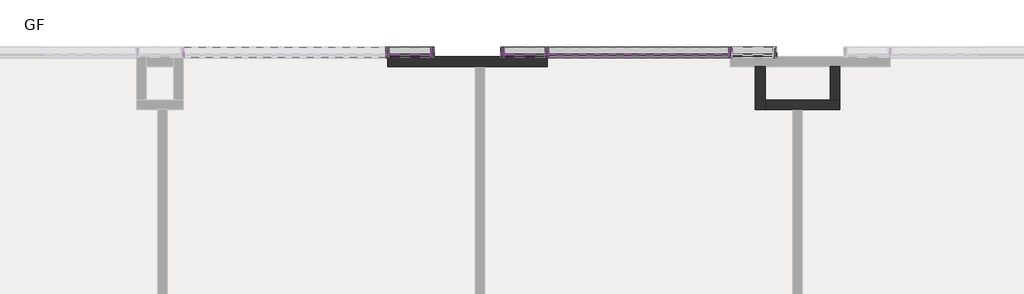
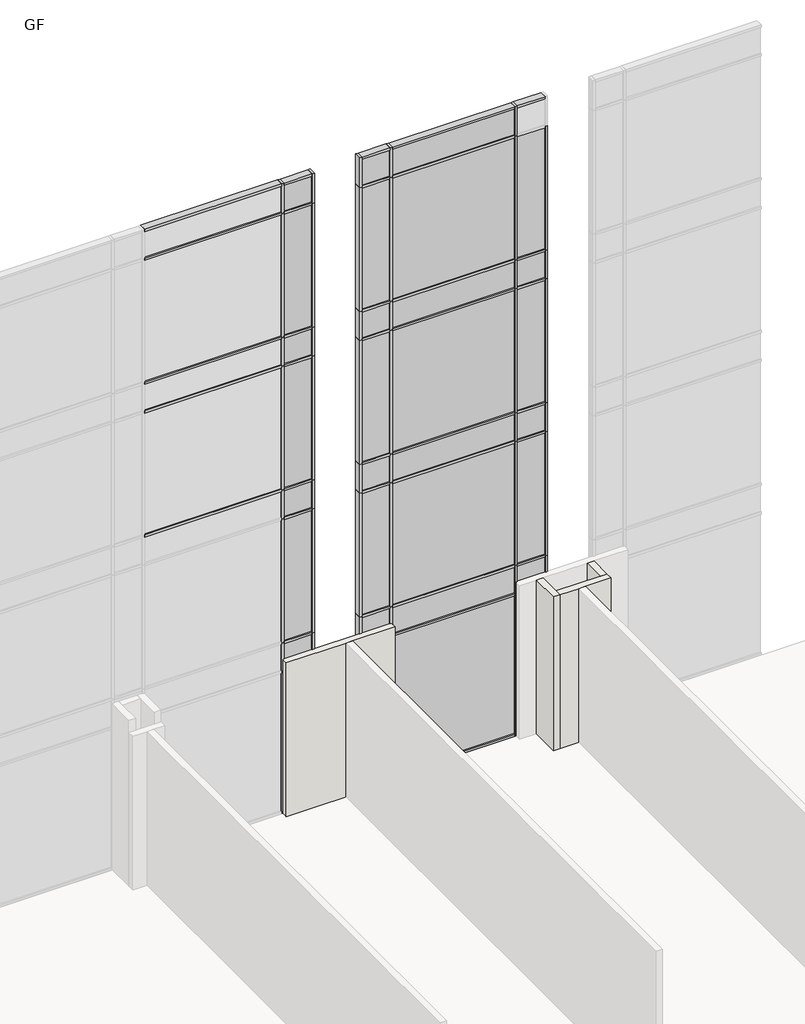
# One storey, part 20 of 23: 87 members, 31 plates, 4 walls.
"""IFC4 building model written with IfcOpenShell, lengths in millimetres."""

from ifc_helpers import new_model, si_unit, frame, origin, place, context, project, spatial, polyline, outline, extrude, faceted_brep, transform, mapped, element, save
from components import rectangular_mullion_50_x_150mm_64d38db8, rectangular_mullion_50_x_150mm_68b3818a, rectangular_mullion_50_x_150mm_350c86c2, rectangular_mullion_50_x_150mm_f245f1eb, rectangular_mullion_50_x_150mm_5fdcfccd, rectangular_mullion_50_x_150mm_d11e3bb4, rectangular_mullion_50_x_150mm_7d543e93, rectangular_mullion_50_x_150mm_9e0f1e24, rectangular_mullion_50_x_150mm_a95743fc, rectangular_mullion_50_x_150mm_dbb82e9e, rectangular_mullion_50_x_150mm_32aaa733, rectangular_mullion_50_x_150mm_9b8962c0, rectangular_mullion_50_x_150mm_2ef494cb, rectangular_mullion_50_x_150mm_4ae6e471, system_panel_glazed_f9f902e6, system_panel_glazed_bf1ddb54, system_panel_glazed_6ff5b55b, system_panel_glazed_2a2db0e8, system_panel_glazed_93ed122c, system_panel_glazed_c1421171

model = new_model("IFC4")

# Units and contexts
model_context = context("Model", 3, world=origin())
ifc_project = project(units=[si_unit("LENGTHUNIT", "METRE", prefix="MILLI")], contexts=[model_context])

# Site, building, storey
site = spatial("IfcSite", under=ifc_project)
building = spatial("IfcBuilding", under=site)
storey = spatial("IfcBuildingStorey", under=building, Name="GF", Elevation=900.0)

# Members
placement = place(None, origin())
rectangular_mullion_50_x_150mm_shape = rectangular_mullion_50_x_150mm_64d38db8(model_context)
element("IfcMember", 1, ObjectType="Rectangular Mullion : 50 x 150mm", at=placement, inside=storey, context=model_context, shape_type="MappedRepresentation", body=[
    mapped(rectangular_mullion_50_x_150mm_shape, transform((14592.4134101, 21322.3851347, 15125.0), x_axis=(0.0, 0.0, 1.0), y_axis=(0.0, -1.0, 0.0), z_axis=(1.0, 0.0, 0.0))),
])
element("IfcMember", 2, ObjectType="Rectangular Mullion : 50 x 150mm", at=placement, inside=storey, context=model_context, shape_type="MappedRepresentation", body=[
    mapped(rectangular_mullion_50_x_150mm_shape, transform((11277.4134101, 21322.3851347, 15125.0), x_axis=(0.0, 0.0, 1.0), y_axis=(0.0, -1.0, 0.0), z_axis=(1.0, 0.0, 0.0))),
])
element("IfcMember", 3, ObjectType="Rectangular Mullion : 50 x 150mm", at=placement, inside=storey, context=model_context, shape_type="MappedRepresentation", body=[
    mapped(rectangular_mullion_50_x_150mm_shape, transform((9607.4134101, 21322.3851347, 15125.0), x_axis=(0.0, 0.0, 1.0), y_axis=(0.0, -1.0, 0.0), z_axis=(1.0, 0.0, 0.0))),
])
element("IfcMember", 4, ObjectType="Rectangular Mullion : 50 x 150mm", at=placement, inside=storey, context=model_context, shape_type="MappedRepresentation", body=[
    mapped(rectangular_mullion_50_x_150mm_shape, transform((10677.4134101, 21322.3851347, 900.0), x_axis=(0.0, 0.0, -1.0), y_axis=(0.0, -1.0, 0.0), z_axis=(-1.0, 0.0, 0.0))),
])
element("IfcMember", 5, ObjectType="Rectangular Mullion : 50 x 150mm", at=placement, inside=storey, context=model_context, shape_type="MappedRepresentation", body=[
    mapped(rectangular_mullion_50_x_150mm_shape, transform((13992.4134101, 21322.3851347, 900.0), x_axis=(0.0, 0.0, -1.0), y_axis=(0.0, -1.0, 0.0), z_axis=(-1.0, 0.0, 0.0))),
])
element("IfcMember", 6, ObjectType="Rectangular Mullion : 50 x 150mm", at=placement, inside=storey, context=model_context, shape_type="MappedRepresentation", body=[
    mapped(rectangular_mullion_50_x_150mm_shape, transform((9007.4134101, 21322.3851347, 900.0), x_axis=(0.0, 0.0, -1.0), y_axis=(0.0, -1.0, 0.0), z_axis=(-1.0, 0.0, 0.0))),
])
rectangular_mullion_50_x_150mm_2_shape = rectangular_mullion_50_x_150mm_68b3818a(model_context)
element("IfcMember", 7, ObjectType="Rectangular Mullion : 50 x 150mm", at=placement, inside=storey, context=model_context, shape_type="MappedRepresentation", body=[
    mapped(rectangular_mullion_50_x_150mm_2_shape, transform((11277.4134101, 21322.3851347, 4750.0), x_axis=(0.0, 0.0, 1.0), y_axis=(0.0, -1.0, 0.0), z_axis=(1.0, 0.0, 0.0))),
])
element("IfcMember", 8, ObjectType="Rectangular Mullion : 50 x 150mm", at=placement, inside=storey, context=model_context, shape_type="MappedRepresentation", body=[
    mapped(rectangular_mullion_50_x_150mm_2_shape, transform((14592.4134101, 21322.3851347, 4750.0), x_axis=(0.0, 0.0, 1.0), y_axis=(0.0, -1.0, 0.0), z_axis=(1.0, 0.0, 0.0))),
])
element("IfcMember", 9, ObjectType="Rectangular Mullion : 50 x 150mm", at=placement, inside=storey, context=model_context, shape_type="MappedRepresentation", body=[
    mapped(rectangular_mullion_50_x_150mm_2_shape, transform((11277.4134101, 21322.3851347, 4100.0), x_axis=(0.0, 0.0, 1.0), y_axis=(0.0, -1.0, 0.0), z_axis=(1.0, 0.0, 0.0))),
])
element("IfcMember", 10, ObjectType="Rectangular Mullion : 50 x 150mm", at=placement, inside=storey, context=model_context, shape_type="MappedRepresentation", body=[
    mapped(rectangular_mullion_50_x_150mm_2_shape, transform((14592.4134101, 21322.3851347, 4100.0), x_axis=(0.0, 0.0, 1.0), y_axis=(0.0, -1.0, 0.0), z_axis=(1.0, 0.0, 0.0))),
])
element("IfcMember", 11, ObjectType="Rectangular Mullion : 50 x 150mm", at=placement, inside=storey, context=model_context, shape_type="MappedRepresentation", body=[
    mapped(rectangular_mullion_50_x_150mm_2_shape, transform((11277.4134101, 21322.3851347, 8200.0), x_axis=(0.0, 0.0, 1.0), y_axis=(0.0, -1.0, 0.0), z_axis=(1.0, 0.0, 0.0))),
])
element("IfcMember", 12, ObjectType="Rectangular Mullion : 50 x 150mm", at=placement, inside=storey, context=model_context, shape_type="MappedRepresentation", body=[
    mapped(rectangular_mullion_50_x_150mm_2_shape, transform((14592.4134101, 21322.3851347, 8200.0), x_axis=(0.0, 0.0, 1.0), y_axis=(0.0, -1.0, 0.0), z_axis=(1.0, 0.0, 0.0))),
])
element("IfcMember", 13, ObjectType="Rectangular Mullion : 50 x 150mm", at=placement, inside=storey, context=model_context, shape_type="MappedRepresentation", body=[
    mapped(rectangular_mullion_50_x_150mm_2_shape, transform((11277.4134101, 21322.3851347, 11650.0), x_axis=(0.0, 0.0, 1.0), y_axis=(0.0, -1.0, 0.0), z_axis=(1.0, 0.0, 0.0))),
])
element("IfcMember", 14, ObjectType="Rectangular Mullion : 50 x 150mm", at=placement, inside=storey, context=model_context, shape_type="MappedRepresentation", body=[
    mapped(rectangular_mullion_50_x_150mm_2_shape, transform((14592.4134101, 21322.3851347, 11650.0), x_axis=(0.0, 0.0, 1.0), y_axis=(0.0, -1.0, 0.0), z_axis=(1.0, 0.0, 0.0))),
])
element("IfcMember", 15, ObjectType="Rectangular Mullion : 50 x 150mm", at=placement, inside=storey, context=model_context, shape_type="MappedRepresentation", body=[
    mapped(rectangular_mullion_50_x_150mm_2_shape, transform((11277.4134101, 21322.3851347, 7550.0), x_axis=(0.0, 0.0, 1.0), y_axis=(0.0, -1.0, 0.0), z_axis=(1.0, 0.0, 0.0))),
])
element("IfcMember", 16, ObjectType="Rectangular Mullion : 50 x 150mm", at=placement, inside=storey, context=model_context, shape_type="MappedRepresentation", body=[
    mapped(rectangular_mullion_50_x_150mm_2_shape, transform((14592.4134101, 21322.3851347, 7550.0), x_axis=(0.0, 0.0, 1.0), y_axis=(0.0, -1.0, 0.0), z_axis=(1.0, 0.0, 0.0))),
])
element("IfcMember", 17, ObjectType="Rectangular Mullion : 50 x 150mm", at=placement, inside=storey, context=model_context, shape_type="MappedRepresentation", body=[
    mapped(rectangular_mullion_50_x_150mm_2_shape, transform((11277.4134101, 21322.3851347, 11000.0), x_axis=(0.0, 0.0, 1.0), y_axis=(0.0, -1.0, 0.0), z_axis=(1.0, 0.0, 0.0))),
])
element("IfcMember", 18, ObjectType="Rectangular Mullion : 50 x 150mm", at=placement, inside=storey, context=model_context, shape_type="MappedRepresentation", body=[
    mapped(rectangular_mullion_50_x_150mm_2_shape, transform((14592.4134101, 21322.3851347, 11000.0), x_axis=(0.0, 0.0, 1.0), y_axis=(0.0, -1.0, 0.0), z_axis=(1.0, 0.0, 0.0))),
])
element("IfcMember", 19, ObjectType="Rectangular Mullion : 50 x 150mm", at=placement, inside=storey, context=model_context, shape_type="MappedRepresentation", body=[
    mapped(rectangular_mullion_50_x_150mm_2_shape, transform((11277.4134101, 21322.3851347, 14450.0), x_axis=(0.0, 0.0, 1.0), y_axis=(0.0, -1.0, 0.0), z_axis=(1.0, 0.0, 0.0))),
])
element("IfcMember", 20, ObjectType="Rectangular Mullion : 50 x 150mm", at=placement, inside=storey, context=model_context, shape_type="MappedRepresentation", body=[
    mapped(rectangular_mullion_50_x_150mm_2_shape, transform((9607.4134101, 21322.3851347, 4100.0), x_axis=(0.0, 0.0, 1.0), y_axis=(0.0, -1.0, 0.0), z_axis=(1.0, 0.0, 0.0))),
])
element("IfcMember", 21, ObjectType="Rectangular Mullion : 50 x 150mm", at=placement, inside=storey, context=model_context, shape_type="MappedRepresentation", body=[
    mapped(rectangular_mullion_50_x_150mm_2_shape, transform((9607.4134101, 21322.3851347, 4750.0), x_axis=(0.0, 0.0, 1.0), y_axis=(0.0, -1.0, 0.0), z_axis=(1.0, 0.0, 0.0))),
])
element("IfcMember", 22, ObjectType="Rectangular Mullion : 50 x 150mm", at=placement, inside=storey, context=model_context, shape_type="MappedRepresentation", body=[
    mapped(rectangular_mullion_50_x_150mm_2_shape, transform((9607.4134101, 21322.3851347, 7550.0), x_axis=(0.0, 0.0, 1.0), y_axis=(0.0, -1.0, 0.0), z_axis=(1.0, 0.0, 0.0))),
])
element("IfcMember", 23, ObjectType="Rectangular Mullion : 50 x 150mm", at=placement, inside=storey, context=model_context, shape_type="MappedRepresentation", body=[
    mapped(rectangular_mullion_50_x_150mm_2_shape, transform((9607.4134101, 21322.3851347, 8200.0), x_axis=(0.0, 0.0, 1.0), y_axis=(0.0, -1.0, 0.0), z_axis=(1.0, 0.0, 0.0))),
])
element("IfcMember", 24, ObjectType="Rectangular Mullion : 50 x 150mm", at=placement, inside=storey, context=model_context, shape_type="MappedRepresentation", body=[
    mapped(rectangular_mullion_50_x_150mm_2_shape, transform((9607.4134101, 21322.3851347, 11000.0), x_axis=(0.0, 0.0, 1.0), y_axis=(0.0, -1.0, 0.0), z_axis=(1.0, 0.0, 0.0))),
])
element("IfcMember", 25, ObjectType="Rectangular Mullion : 50 x 150mm", at=placement, inside=storey, context=model_context, shape_type="MappedRepresentation", body=[
    mapped(rectangular_mullion_50_x_150mm_2_shape, transform((9607.4134101, 21322.3851347, 11650.0), x_axis=(0.0, 0.0, 1.0), y_axis=(0.0, -1.0, 0.0), z_axis=(1.0, 0.0, 0.0))),
])
element("IfcMember", 26, ObjectType="Rectangular Mullion : 50 x 150mm", at=placement, inside=storey, context=model_context, shape_type="MappedRepresentation", body=[
    mapped(rectangular_mullion_50_x_150mm_2_shape, transform((9607.4134101, 21322.3851347, 14450.0), x_axis=(0.0, 0.0, 1.0), y_axis=(0.0, -1.0, 0.0), z_axis=(1.0, 0.0, 0.0))),
])
rectangular_mullion_50_x_150mm_3_shape = rectangular_mullion_50_x_150mm_350c86c2(model_context)
element("IfcMember", 27, ObjectType="Rectangular Mullion : 50 x 150mm", at=placement, inside=storey, context=model_context, shape_type="MappedRepresentation", body=[
    mapped(rectangular_mullion_50_x_150mm_3_shape, transform((11327.4134101, 21322.3851347, 900.0), x_axis=(0.0, 0.0, -1.0), y_axis=(0.0, -1.0, 0.0), z_axis=(-1.0, 0.0, 0.0))),
])
rectangular_mullion_50_x_150mm_4_shape = rectangular_mullion_50_x_150mm_f245f1eb(model_context)
element("IfcMember", 28, ObjectType="Rectangular Mullion : 50 x 150mm", at=placement, inside=storey, context=model_context, shape_type="MappedRepresentation", body=[
    mapped(rectangular_mullion_50_x_150mm_4_shape, transform((11302.4134101, 21322.3851347, 900.0), x_axis=(1.0, 0.0, 0.0), y_axis=(0.0, -1.0, 0.0), z_axis=(0.0, 0.0, -1.0))),
])
element("IfcMember", 29, ObjectType="Rectangular Mullion : 50 x 150mm", at=placement, inside=storey, context=model_context, shape_type="MappedRepresentation", body=[
    mapped(rectangular_mullion_50_x_150mm_4_shape, transform((13967.4134101, 21322.3851347, 900.0), x_axis=(1.0, 0.0, 0.0), y_axis=(0.0, -1.0, 0.0), z_axis=(0.0, 0.0, -1.0))),
])
element("IfcMember", 30, ObjectType="Rectangular Mullion : 50 x 150mm", at=placement, inside=storey, context=model_context, shape_type="MappedRepresentation", body=[
    mapped(rectangular_mullion_50_x_150mm_4_shape, transform((8982.4134101, 21322.3851347, 900.0), x_axis=(1.0, 0.0, 0.0), y_axis=(0.0, -1.0, 0.0), z_axis=(0.0, 0.0, -1.0))),
])
element("IfcMember", 31, ObjectType="Rectangular Mullion : 50 x 150mm", at=placement, inside=storey, context=model_context, shape_type="MappedRepresentation", body=[
    mapped(rectangular_mullion_50_x_150mm_3_shape, transform((13942.4134101, 21322.3851347, 15125.0), x_axis=(0.0, 0.0, 1.0), y_axis=(0.0, -1.0, 0.0), z_axis=(1.0, 0.0, 0.0))),
])
rectangular_mullion_50_x_150mm_5_shape = rectangular_mullion_50_x_150mm_5fdcfccd(model_context)
element("IfcMember", 32, ObjectType="Rectangular Mullion : 50 x 150mm", at=placement, inside=storey, context=model_context, shape_type="MappedRepresentation", body=[
    mapped(rectangular_mullion_50_x_150mm_5_shape, transform((13942.4134101, 21322.3851347, 4750.0), x_axis=(0.0, 0.0, 1.0), y_axis=(0.0, -1.0, 0.0), z_axis=(1.0, 0.0, 0.0))),
])
element("IfcMember", 33, ObjectType="Rectangular Mullion : 50 x 150mm", at=placement, inside=storey, context=model_context, shape_type="MappedRepresentation", body=[
    mapped(rectangular_mullion_50_x_150mm_5_shape, transform((13942.4134101, 21322.3851347, 4100.0), x_axis=(0.0, 0.0, 1.0), y_axis=(0.0, -1.0, 0.0), z_axis=(1.0, 0.0, 0.0))),
])
element("IfcMember", 34, ObjectType="Rectangular Mullion : 50 x 150mm", at=placement, inside=storey, context=model_context, shape_type="MappedRepresentation", body=[
    mapped(rectangular_mullion_50_x_150mm_5_shape, transform((13942.4134101, 21322.3851347, 8200.0), x_axis=(0.0, 0.0, 1.0), y_axis=(0.0, -1.0, 0.0), z_axis=(1.0, 0.0, 0.0))),
])
element("IfcMember", 35, ObjectType="Rectangular Mullion : 50 x 150mm", at=placement, inside=storey, context=model_context, shape_type="MappedRepresentation", body=[
    mapped(rectangular_mullion_50_x_150mm_5_shape, transform((13942.4134101, 21322.3851347, 11650.0), x_axis=(0.0, 0.0, 1.0), y_axis=(0.0, -1.0, 0.0), z_axis=(1.0, 0.0, 0.0))),
])
element("IfcMember", 36, ObjectType="Rectangular Mullion : 50 x 150mm", at=placement, inside=storey, context=model_context, shape_type="MappedRepresentation", body=[
    mapped(rectangular_mullion_50_x_150mm_5_shape, transform((13942.4134101, 21322.3851347, 7550.0), x_axis=(0.0, 0.0, 1.0), y_axis=(0.0, -1.0, 0.0), z_axis=(1.0, 0.0, 0.0))),
])
element("IfcMember", 37, ObjectType="Rectangular Mullion : 50 x 150mm", at=placement, inside=storey, context=model_context, shape_type="MappedRepresentation", body=[
    mapped(rectangular_mullion_50_x_150mm_5_shape, transform((13942.4134101, 21322.3851347, 11000.0), x_axis=(0.0, 0.0, 1.0), y_axis=(0.0, -1.0, 0.0), z_axis=(1.0, 0.0, 0.0))),
])
element("IfcMember", 38, ObjectType="Rectangular Mullion : 50 x 150mm", at=placement, inside=storey, context=model_context, shape_type="MappedRepresentation", body=[
    mapped(rectangular_mullion_50_x_150mm_5_shape, transform((13942.4134101, 21322.3851347, 14450.0), x_axis=(0.0, 0.0, 1.0), y_axis=(0.0, -1.0, 0.0), z_axis=(1.0, 0.0, 0.0))),
])
rectangular_mullion_50_x_150mm_6_shape = rectangular_mullion_50_x_150mm_d11e3bb4(model_context)
element("IfcMember", 39, ObjectType="Rectangular Mullion : 50 x 150mm", at=placement, inside=storey, context=model_context, shape_type="MappedRepresentation", body=[
    mapped(rectangular_mullion_50_x_150mm_6_shape, transform((11302.4134101, 21322.3851347, 4750.0), x_axis=(1.0, 0.0, 0.0), y_axis=(0.0, -1.0, 0.0), z_axis=(0.0, 0.0, -1.0))),
])
element("IfcMember", 40, ObjectType="Rectangular Mullion : 50 x 150mm", at=placement, inside=storey, context=model_context, shape_type="MappedRepresentation", body=[
    mapped(rectangular_mullion_50_x_150mm_6_shape, transform((13967.4134101, 21322.3851347, 4750.0), x_axis=(1.0, 0.0, 0.0), y_axis=(0.0, -1.0, 0.0), z_axis=(0.0, 0.0, -1.0))),
])
element("IfcMember", 41, ObjectType="Rectangular Mullion : 50 x 150mm", at=placement, inside=storey, context=model_context, shape_type="MappedRepresentation", body=[
    mapped(rectangular_mullion_50_x_150mm_6_shape, transform((11302.4134101, 21322.3851347, 8200.0), x_axis=(1.0, 0.0, 0.0), y_axis=(0.0, -1.0, 0.0), z_axis=(0.0, 0.0, -1.0))),
])
element("IfcMember", 42, ObjectType="Rectangular Mullion : 50 x 150mm", at=placement, inside=storey, context=model_context, shape_type="MappedRepresentation", body=[
    mapped(rectangular_mullion_50_x_150mm_6_shape, transform((13967.4134101, 21322.3851347, 8200.0), x_axis=(1.0, 0.0, 0.0), y_axis=(0.0, -1.0, 0.0), z_axis=(0.0, 0.0, -1.0))),
])
element("IfcMember", 43, ObjectType="Rectangular Mullion : 50 x 150mm", at=placement, inside=storey, context=model_context, shape_type="MappedRepresentation", body=[
    mapped(rectangular_mullion_50_x_150mm_6_shape, transform((11302.4134101, 21322.3851347, 11650.0), x_axis=(1.0, 0.0, 0.0), y_axis=(0.0, -1.0, 0.0), z_axis=(0.0, 0.0, -1.0))),
])
element("IfcMember", 44, ObjectType="Rectangular Mullion : 50 x 150mm", at=placement, inside=storey, context=model_context, shape_type="MappedRepresentation", body=[
    mapped(rectangular_mullion_50_x_150mm_6_shape, transform((13967.4134101, 21322.3851347, 11650.0), x_axis=(1.0, 0.0, 0.0), y_axis=(0.0, -1.0, 0.0), z_axis=(0.0, 0.0, -1.0))),
])
element("IfcMember", 45, ObjectType="Rectangular Mullion : 50 x 150mm", at=placement, inside=storey, context=model_context, shape_type="MappedRepresentation", body=[
    mapped(rectangular_mullion_50_x_150mm_6_shape, transform((8982.4134101, 21322.3851347, 4750.0), x_axis=(1.0, 0.0, 0.0), y_axis=(0.0, -1.0, 0.0), z_axis=(0.0, 0.0, -1.0))),
])
element("IfcMember", 46, ObjectType="Rectangular Mullion : 50 x 150mm", at=placement, inside=storey, context=model_context, shape_type="MappedRepresentation", body=[
    mapped(rectangular_mullion_50_x_150mm_6_shape, transform((8982.4134101, 21322.3851347, 8200.0), x_axis=(1.0, 0.0, 0.0), y_axis=(0.0, -1.0, 0.0), z_axis=(0.0, 0.0, -1.0))),
])
element("IfcMember", 47, ObjectType="Rectangular Mullion : 50 x 150mm", at=placement, inside=storey, context=model_context, shape_type="MappedRepresentation", body=[
    mapped(rectangular_mullion_50_x_150mm_6_shape, transform((8982.4134101, 21322.3851347, 11650.0), x_axis=(1.0, 0.0, 0.0), y_axis=(0.0, -1.0, 0.0), z_axis=(0.0, 0.0, -1.0))),
])
rectangular_mullion_50_x_150mm_7_shape = rectangular_mullion_50_x_150mm_7d543e93(model_context)
element("IfcMember", 48, ObjectType="Rectangular Mullion : 50 x 150mm", at=placement, inside=storey, context=model_context, shape_type="MappedRepresentation", body=[
    mapped(rectangular_mullion_50_x_150mm_7_shape, transform((11302.4134101, 21322.3851347, 4100.0), x_axis=(1.0, 0.0, 0.0), y_axis=(0.0, -1.0, 0.0), z_axis=(0.0, 0.0, -1.0))),
])
element("IfcMember", 49, ObjectType="Rectangular Mullion : 50 x 150mm", at=placement, inside=storey, context=model_context, shape_type="MappedRepresentation", body=[
    mapped(rectangular_mullion_50_x_150mm_7_shape, transform((13967.4134101, 21322.3851347, 4100.0), x_axis=(1.0, 0.0, 0.0), y_axis=(0.0, -1.0, 0.0), z_axis=(0.0, 0.0, -1.0))),
])
element("IfcMember", 50, ObjectType="Rectangular Mullion : 50 x 150mm", at=placement, inside=storey, context=model_context, shape_type="MappedRepresentation", body=[
    mapped(rectangular_mullion_50_x_150mm_7_shape, transform((11302.4134101, 21322.3851347, 7550.0), x_axis=(1.0, 0.0, 0.0), y_axis=(0.0, -1.0, 0.0), z_axis=(0.0, 0.0, -1.0))),
])
element("IfcMember", 51, ObjectType="Rectangular Mullion : 50 x 150mm", at=placement, inside=storey, context=model_context, shape_type="MappedRepresentation", body=[
    mapped(rectangular_mullion_50_x_150mm_7_shape, transform((13967.4134101, 21322.3851347, 7550.0), x_axis=(1.0, 0.0, 0.0), y_axis=(0.0, -1.0, 0.0), z_axis=(0.0, 0.0, -1.0))),
])
element("IfcMember", 52, ObjectType="Rectangular Mullion : 50 x 150mm", at=placement, inside=storey, context=model_context, shape_type="MappedRepresentation", body=[
    mapped(rectangular_mullion_50_x_150mm_7_shape, transform((11302.4134101, 21322.3851347, 11000.0), x_axis=(1.0, 0.0, 0.0), y_axis=(0.0, -1.0, 0.0), z_axis=(0.0, 0.0, -1.0))),
])
element("IfcMember", 53, ObjectType="Rectangular Mullion : 50 x 150mm", at=placement, inside=storey, context=model_context, shape_type="MappedRepresentation", body=[
    mapped(rectangular_mullion_50_x_150mm_7_shape, transform((13967.4134101, 21322.3851347, 11000.0), x_axis=(1.0, 0.0, 0.0), y_axis=(0.0, -1.0, 0.0), z_axis=(0.0, 0.0, -1.0))),
])
element("IfcMember", 54, ObjectType="Rectangular Mullion : 50 x 150mm", at=placement, inside=storey, context=model_context, shape_type="MappedRepresentation", body=[
    mapped(rectangular_mullion_50_x_150mm_7_shape, transform((8982.4134101, 21322.3851347, 4100.0), x_axis=(1.0, 0.0, 0.0), y_axis=(0.0, -1.0, 0.0), z_axis=(0.0, 0.0, -1.0))),
])
element("IfcMember", 55, ObjectType="Rectangular Mullion : 50 x 150mm", at=placement, inside=storey, context=model_context, shape_type="MappedRepresentation", body=[
    mapped(rectangular_mullion_50_x_150mm_7_shape, transform((8982.4134101, 21322.3851347, 7550.0), x_axis=(1.0, 0.0, 0.0), y_axis=(0.0, -1.0, 0.0), z_axis=(0.0, 0.0, -1.0))),
])
element("IfcMember", 56, ObjectType="Rectangular Mullion : 50 x 150mm", at=placement, inside=storey, context=model_context, shape_type="MappedRepresentation", body=[
    mapped(rectangular_mullion_50_x_150mm_7_shape, transform((8982.4134101, 21322.3851347, 11000.0), x_axis=(1.0, 0.0, 0.0), y_axis=(0.0, -1.0, 0.0), z_axis=(0.0, 0.0, -1.0))),
])
rectangular_mullion_50_x_150mm_8_shape = rectangular_mullion_50_x_150mm_9e0f1e24(model_context)
element("IfcMember", 57, ObjectType="Rectangular Mullion : 50 x 150mm", at=placement, inside=storey, context=model_context, shape_type="MappedRepresentation", body=[
    mapped(rectangular_mullion_50_x_150mm_8_shape, transform((11302.4134101, 21322.3851347, 14450.0), x_axis=(1.0, 0.0, 0.0), y_axis=(0.0, -1.0, 0.0), z_axis=(0.0, 0.0, -1.0))),
])
element("IfcMember", 58, ObjectType="Rectangular Mullion : 50 x 150mm", at=placement, inside=storey, context=model_context, shape_type="MappedRepresentation", body=[
    mapped(rectangular_mullion_50_x_150mm_8_shape, transform((13967.4134101, 21322.3851347, 14450.0), x_axis=(1.0, 0.0, 0.0), y_axis=(0.0, -1.0, 0.0), z_axis=(0.0, 0.0, -1.0))),
])
element("IfcMember", 59, ObjectType="Rectangular Mullion : 50 x 150mm", at=placement, inside=storey, context=model_context, shape_type="MappedRepresentation", body=[
    mapped(rectangular_mullion_50_x_150mm_8_shape, transform((8982.4134101, 21322.3851347, 14450.0), x_axis=(1.0, 0.0, 0.0), y_axis=(0.0, -1.0, 0.0), z_axis=(0.0, 0.0, -1.0))),
])
rectangular_mullion_50_x_150mm_9_shape = rectangular_mullion_50_x_150mm_a95743fc(model_context)
element("IfcMember", 60, ObjectType="Rectangular Mullion : 50 x 150mm", at=placement, inside=storey, context=model_context, shape_type="MappedRepresentation", body=[
    mapped(rectangular_mullion_50_x_150mm_9_shape, transform((14642.4134101, 21322.3851347, 900.0), x_axis=(1.0, 0.0, 0.0), y_axis=(0.0, -1.0, 0.0), z_axis=(0.0, 0.0, -1.0))),
])
element("IfcMember", 61, ObjectType="Rectangular Mullion : 50 x 150mm", at=placement, inside=storey, context=model_context, shape_type="MappedRepresentation", body=[
    mapped(rectangular_mullion_50_x_150mm_9_shape, transform((9657.4134101, 21322.3851347, 900.0), x_axis=(1.0, 0.0, 0.0), y_axis=(0.0, -1.0, 0.0), z_axis=(0.0, 0.0, -1.0))),
])
rectangular_mullion_50_x_150mm_10_shape = rectangular_mullion_50_x_150mm_dbb82e9e(model_context)
element("IfcMember", 62, ObjectType="Rectangular Mullion : 50 x 150mm", at=placement, inside=storey, context=model_context, shape_type="MappedRepresentation", body=[
    mapped(rectangular_mullion_50_x_150mm_10_shape, transform((10627.4134101, 21322.3851347, 15125.0), x_axis=(-1.0, 0.0, 0.0), y_axis=(0.0, -1.0, 0.0), z_axis=(0.0, 0.0, 1.0))),
])
rectangular_mullion_50_x_150mm_11_shape = rectangular_mullion_50_x_150mm_32aaa733(model_context)
element("IfcMember", 63, ObjectType="Rectangular Mullion : 50 x 150mm", at=placement, inside=storey, context=model_context, shape_type="MappedRepresentation", body=[
    mapped(rectangular_mullion_50_x_150mm_11_shape, transform((14642.4134101, 21322.3851347, 4750.0), x_axis=(1.0, 0.0, 0.0), y_axis=(0.0, -1.0, 0.0), z_axis=(0.0, 0.0, -1.0))),
])
element("IfcMember", 64, ObjectType="Rectangular Mullion : 50 x 150mm", at=placement, inside=storey, context=model_context, shape_type="MappedRepresentation", body=[
    mapped(rectangular_mullion_50_x_150mm_11_shape, transform((14642.4134101, 21322.3851347, 8200.0), x_axis=(1.0, 0.0, 0.0), y_axis=(0.0, -1.0, 0.0), z_axis=(0.0, 0.0, -1.0))),
])
element("IfcMember", 65, ObjectType="Rectangular Mullion : 50 x 150mm", at=placement, inside=storey, context=model_context, shape_type="MappedRepresentation", body=[
    mapped(rectangular_mullion_50_x_150mm_11_shape, transform((14642.4134101, 21322.3851347, 11650.0), x_axis=(1.0, 0.0, 0.0), y_axis=(0.0, -1.0, 0.0), z_axis=(0.0, 0.0, -1.0))),
])
element("IfcMember", 66, ObjectType="Rectangular Mullion : 50 x 150mm", at=placement, inside=storey, context=model_context, shape_type="MappedRepresentation", body=[
    mapped(rectangular_mullion_50_x_150mm_11_shape, transform((9657.4134101, 21322.3851347, 4750.0), x_axis=(1.0, 0.0, 0.0), y_axis=(0.0, -1.0, 0.0), z_axis=(0.0, 0.0, -1.0))),
])
element("IfcMember", 67, ObjectType="Rectangular Mullion : 50 x 150mm", at=placement, inside=storey, context=model_context, shape_type="MappedRepresentation", body=[
    mapped(rectangular_mullion_50_x_150mm_11_shape, transform((9657.4134101, 21322.3851347, 8200.0), x_axis=(1.0, 0.0, 0.0), y_axis=(0.0, -1.0, 0.0), z_axis=(0.0, 0.0, -1.0))),
])
element("IfcMember", 68, ObjectType="Rectangular Mullion : 50 x 150mm", at=placement, inside=storey, context=model_context, shape_type="MappedRepresentation", body=[
    mapped(rectangular_mullion_50_x_150mm_11_shape, transform((9657.4134101, 21322.3851347, 11650.0), x_axis=(1.0, 0.0, 0.0), y_axis=(0.0, -1.0, 0.0), z_axis=(0.0, 0.0, -1.0))),
])
rectangular_mullion_50_x_150mm_12_shape = rectangular_mullion_50_x_150mm_9b8962c0(model_context)
element("IfcMember", 69, ObjectType="Rectangular Mullion : 50 x 150mm", at=placement, inside=storey, context=model_context, shape_type="MappedRepresentation", body=[
    mapped(rectangular_mullion_50_x_150mm_12_shape, transform((10627.4134101, 21322.3851347, 4750.0), x_axis=(-1.0, 0.0, 0.0), y_axis=(0.0, -1.0, 0.0), z_axis=(0.0, 0.0, 1.0))),
])
element("IfcMember", 70, ObjectType="Rectangular Mullion : 50 x 150mm", at=placement, inside=storey, context=model_context, shape_type="MappedRepresentation", body=[
    mapped(rectangular_mullion_50_x_150mm_12_shape, transform((10627.4134101, 21322.3851347, 8200.0), x_axis=(-1.0, 0.0, 0.0), y_axis=(0.0, -1.0, 0.0), z_axis=(0.0, 0.0, 1.0))),
])
element("IfcMember", 71, ObjectType="Rectangular Mullion : 50 x 150mm", at=placement, inside=storey, context=model_context, shape_type="MappedRepresentation", body=[
    mapped(rectangular_mullion_50_x_150mm_12_shape, transform((10627.4134101, 21322.3851347, 11650.0), x_axis=(-1.0, 0.0, 0.0), y_axis=(0.0, -1.0, 0.0), z_axis=(0.0, 0.0, 1.0))),
])
element("IfcMember", 72, ObjectType="Rectangular Mullion : 50 x 150mm", at=placement, inside=storey, context=model_context, shape_type="MappedRepresentation", body=[
    mapped(rectangular_mullion_50_x_150mm_12_shape, transform((14642.4134101, 21322.3851347, 4100.0), x_axis=(1.0, 0.0, 0.0), y_axis=(0.0, -1.0, 0.0), z_axis=(0.0, 0.0, -1.0))),
])
element("IfcMember", 73, ObjectType="Rectangular Mullion : 50 x 150mm", at=placement, inside=storey, context=model_context, shape_type="MappedRepresentation", body=[
    mapped(rectangular_mullion_50_x_150mm_12_shape, transform((14642.4134101, 21322.3851347, 7550.0), x_axis=(1.0, 0.0, 0.0), y_axis=(0.0, -1.0, 0.0), z_axis=(0.0, 0.0, -1.0))),
])
element("IfcMember", 74, ObjectType="Rectangular Mullion : 50 x 150mm", at=placement, inside=storey, context=model_context, shape_type="MappedRepresentation", body=[
    mapped(rectangular_mullion_50_x_150mm_12_shape, transform((14642.4134101, 21322.3851347, 11000.0), x_axis=(1.0, 0.0, 0.0), y_axis=(0.0, -1.0, 0.0), z_axis=(0.0, 0.0, -1.0))),
])
element("IfcMember", 75, ObjectType="Rectangular Mullion : 50 x 150mm", at=placement, inside=storey, context=model_context, shape_type="MappedRepresentation", body=[
    mapped(rectangular_mullion_50_x_150mm_12_shape, transform((9657.4134101, 21322.3851347, 4100.0), x_axis=(1.0, 0.0, 0.0), y_axis=(0.0, -1.0, 0.0), z_axis=(0.0, 0.0, -1.0))),
])
element("IfcMember", 76, ObjectType="Rectangular Mullion : 50 x 150mm", at=placement, inside=storey, context=model_context, shape_type="MappedRepresentation", body=[
    mapped(rectangular_mullion_50_x_150mm_12_shape, transform((9657.4134101, 21322.3851347, 7550.0), x_axis=(1.0, 0.0, 0.0), y_axis=(0.0, -1.0, 0.0), z_axis=(0.0, 0.0, -1.0))),
])
element("IfcMember", 77, ObjectType="Rectangular Mullion : 50 x 150mm", at=placement, inside=storey, context=model_context, shape_type="MappedRepresentation", body=[
    mapped(rectangular_mullion_50_x_150mm_12_shape, transform((9657.4134101, 21322.3851347, 11000.0), x_axis=(1.0, 0.0, 0.0), y_axis=(0.0, -1.0, 0.0), z_axis=(0.0, 0.0, -1.0))),
])
element("IfcMember", 78, ObjectType="Rectangular Mullion : 50 x 150mm", at=placement, inside=storey, context=model_context, shape_type="MappedRepresentation", body=[
    mapped(rectangular_mullion_50_x_150mm_9_shape, transform((10627.4134101, 21322.3851347, 4100.0), x_axis=(-1.0, 0.0, 0.0), y_axis=(0.0, -1.0, 0.0), z_axis=(0.0, 0.0, 1.0))),
])
element("IfcMember", 79, ObjectType="Rectangular Mullion : 50 x 150mm", at=placement, inside=storey, context=model_context, shape_type="MappedRepresentation", body=[
    mapped(rectangular_mullion_50_x_150mm_11_shape, transform((10627.4134101, 21322.3851347, 7550.0), x_axis=(-1.0, 0.0, 0.0), y_axis=(0.0, -1.0, 0.0), z_axis=(0.0, 0.0, 1.0))),
])
element("IfcMember", 80, ObjectType="Rectangular Mullion : 50 x 150mm", at=placement, inside=storey, context=model_context, shape_type="MappedRepresentation", body=[
    mapped(rectangular_mullion_50_x_150mm_11_shape, transform((10627.4134101, 21322.3851347, 11000.0), x_axis=(-1.0, 0.0, 0.0), y_axis=(0.0, -1.0, 0.0), z_axis=(0.0, 0.0, 1.0))),
])
element("IfcMember", 81, ObjectType="Rectangular Mullion : 50 x 150mm", at=placement, inside=storey, context=model_context, shape_type="MappedRepresentation", body=[
    mapped(rectangular_mullion_50_x_150mm_11_shape, transform((10627.4134101, 21322.3851347, 14450.0), x_axis=(-1.0, 0.0, 0.0), y_axis=(0.0, -1.0, 0.0), z_axis=(0.0, 0.0, 1.0))),
])
element("IfcMember", 82, ObjectType="Rectangular Mullion : 50 x 150mm", at=placement, inside=storey, context=model_context, shape_type="MappedRepresentation", body=[
    mapped(rectangular_mullion_50_x_150mm_10_shape, transform((9657.4134101, 21322.3851347, 14450.0), x_axis=(1.0, 0.0, 0.0), y_axis=(0.0, -1.0, 0.0), z_axis=(0.0, 0.0, -1.0))),
])
rectangular_mullion_50_x_150mm_13_shape = rectangular_mullion_50_x_150mm_2ef494cb(model_context)
element("IfcMember", 83, ObjectType="Rectangular Mullion : 50 x 150mm", at=placement, inside=storey, context=model_context, shape_type="MappedRepresentation", body=[
    mapped(rectangular_mullion_50_x_150mm_13_shape, transform((8957.4134101, 21322.3851347, 15125.0), x_axis=(0.0, 0.0, 1.0), y_axis=(0.0, -1.0, 0.0), z_axis=(1.0, 0.0, 0.0))),
])
rectangular_mullion_50_x_150mm_14_shape = rectangular_mullion_50_x_150mm_4ae6e471(model_context)
element("IfcMember", 84, ObjectType="Rectangular Mullion : 50 x 150mm", at=placement, inside=storey, context=model_context, shape_type="MappedRepresentation", body=[
    mapped(rectangular_mullion_50_x_150mm_14_shape, transform((8957.4134101, 21322.3851347, 8200.0), x_axis=(0.0, 0.0, 1.0), y_axis=(0.0, -1.0, 0.0), z_axis=(1.0, 0.0, 0.0))),
])
element("IfcMember", 85, ObjectType="Rectangular Mullion : 50 x 150mm", at=placement, inside=storey, context=model_context, shape_type="MappedRepresentation", body=[
    mapped(rectangular_mullion_50_x_150mm_14_shape, transform((8957.4134101, 21322.3851347, 11000.0), x_axis=(0.0, 0.0, 1.0), y_axis=(0.0, -1.0, 0.0), z_axis=(1.0, 0.0, 0.0))),
])
element("IfcMember", 86, ObjectType="Rectangular Mullion : 50 x 150mm", at=placement, inside=storey, context=model_context, shape_type="MappedRepresentation", body=[
    mapped(rectangular_mullion_50_x_150mm_14_shape, transform((8957.4134101, 21322.3851347, 11650.0), x_axis=(0.0, 0.0, 1.0), y_axis=(0.0, -1.0, 0.0), z_axis=(1.0, 0.0, 0.0))),
])
element("IfcMember", 87, ObjectType="Rectangular Mullion : 50 x 150mm", at=placement, inside=storey, context=model_context, shape_type="MappedRepresentation", body=[
    mapped(rectangular_mullion_50_x_150mm_14_shape, transform((8957.4134101, 21322.3851347, 14450.0), x_axis=(0.0, 0.0, 1.0), y_axis=(0.0, -1.0, 0.0), z_axis=(1.0, 0.0, 0.0))),
])

# Plates
system_panel_glazed_shape = system_panel_glazed_f9f902e6(model_context)
element("IfcPlate", 88, ObjectType="System Panel : Glazed", at=placement, inside=storey, context=model_context, shape_type="MappedRepresentation", body=[
    mapped(system_panel_glazed_shape, transform((10977.4134101, 21322.3851347, 950.0), x_axis=(1.0, 0.0, 0.0), y_axis=(0.0, 1.0, 0.0), z_axis=(0.0, 0.0, 1.0))),
])
element("IfcPlate", 89, ObjectType="System Panel : Glazed", at=placement, inside=storey, context=model_context, shape_type="MappedRepresentation", body=[
    mapped(system_panel_glazed_shape, transform((14292.4134101, 21322.3851347, 950.0), x_axis=(1.0, 0.0, 0.0), y_axis=(0.0, 1.0, 0.0), z_axis=(0.0, 0.0, 1.0))),
])
element("IfcPlate", 90, ObjectType="System Panel : Glazed", at=placement, inside=storey, context=model_context, shape_type="MappedRepresentation", body=[
    mapped(system_panel_glazed_shape, transform((9307.4134101, 21322.3851347, 950.0), x_axis=(1.0, 0.0, 0.0), y_axis=(0.0, 1.0, 0.0), z_axis=(0.0, 0.0, 1.0))),
])
system_panel_glazed_2_shape = system_panel_glazed_bf1ddb54(model_context)
element("IfcPlate", 91, ObjectType="System Panel : Glazed", at=placement, inside=storey, context=model_context, shape_type="MappedRepresentation", body=[
    mapped(system_panel_glazed_2_shape, transform((12634.9134101, 21322.3851347, 950.0), x_axis=(1.0, 0.0, 0.0), y_axis=(0.0, 1.0, 0.0), z_axis=(0.0, 0.0, 1.0))),
])
system_panel_glazed_3_shape = system_panel_glazed_6ff5b55b(model_context)
element("IfcPlate", 92, ObjectType="System Panel : Glazed", at=placement, inside=storey, context=model_context, shape_type="MappedRepresentation", body=[
    mapped(system_panel_glazed_3_shape, transform((10977.4134101, 21322.3851347, 4775.0), x_axis=(1.0, 0.0, 0.0), y_axis=(0.0, 1.0, 0.0), z_axis=(0.0, 0.0, 1.0))),
])
element("IfcPlate", 93, ObjectType="System Panel : Glazed", at=placement, inside=storey, context=model_context, shape_type="MappedRepresentation", body=[
    mapped(system_panel_glazed_3_shape, transform((14292.4134101, 21322.3851347, 4775.0), x_axis=(1.0, 0.0, 0.0), y_axis=(0.0, 1.0, 0.0), z_axis=(0.0, 0.0, 1.0))),
])
element("IfcPlate", 94, ObjectType="System Panel : Glazed", at=placement, inside=storey, context=model_context, shape_type="MappedRepresentation", body=[
    mapped(system_panel_glazed_3_shape, transform((10977.4134101, 21322.3851347, 8225.0), x_axis=(1.0, 0.0, 0.0), y_axis=(0.0, 1.0, 0.0), z_axis=(0.0, 0.0, 1.0))),
])
element("IfcPlate", 95, ObjectType="System Panel : Glazed", at=placement, inside=storey, context=model_context, shape_type="MappedRepresentation", body=[
    mapped(system_panel_glazed_3_shape, transform((14292.4134101, 21322.3851347, 8225.0), x_axis=(1.0, 0.0, 0.0), y_axis=(0.0, 1.0, 0.0), z_axis=(0.0, 0.0, 1.0))),
])
element("IfcPlate", 96, ObjectType="System Panel : Glazed", at=placement, inside=storey, context=model_context, shape_type="MappedRepresentation", body=[
    mapped(system_panel_glazed_3_shape, transform((10977.4134101, 21322.3851347, 11675.0), x_axis=(1.0, 0.0, 0.0), y_axis=(0.0, 1.0, 0.0), z_axis=(0.0, 0.0, 1.0))),
])
element("IfcPlate", 97, ObjectType="System Panel : Glazed", at=placement, inside=storey, context=model_context, shape_type="MappedRepresentation", body=[
    mapped(system_panel_glazed_3_shape, transform((14292.4134101, 21322.3851347, 11675.0), x_axis=(1.0, 0.0, 0.0), y_axis=(0.0, 1.0, 0.0), z_axis=(0.0, 0.0, 1.0))),
])
element("IfcPlate", 98, ObjectType="System Panel : Glazed", at=placement, inside=storey, context=model_context, shape_type="MappedRepresentation", body=[
    mapped(system_panel_glazed_3_shape, transform((9307.4134101, 21322.3851347, 4775.0), x_axis=(1.0, 0.0, 0.0), y_axis=(0.0, 1.0, 0.0), z_axis=(0.0, 0.0, 1.0))),
])
element("IfcPlate", 99, ObjectType="System Panel : Glazed", at=placement, inside=storey, context=model_context, shape_type="MappedRepresentation", body=[
    mapped(system_panel_glazed_3_shape, transform((9307.4134101, 21322.3851347, 8225.0), x_axis=(1.0, 0.0, 0.0), y_axis=(0.0, 1.0, 0.0), z_axis=(0.0, 0.0, 1.0))),
])
element("IfcPlate", 100, ObjectType="System Panel : Glazed", at=placement, inside=storey, context=model_context, shape_type="MappedRepresentation", body=[
    mapped(system_panel_glazed_3_shape, transform((9307.4134101, 21322.3851347, 11675.0), x_axis=(1.0, 0.0, 0.0), y_axis=(0.0, 1.0, 0.0), z_axis=(0.0, 0.0, 1.0))),
])
system_panel_glazed_4_shape = system_panel_glazed_2a2db0e8(model_context)
element("IfcPlate", 101, ObjectType="System Panel : Glazed", at=placement, inside=storey, context=model_context, shape_type="MappedRepresentation", body=[
    mapped(system_panel_glazed_4_shape, transform((12634.9134101, 21322.3851347, 4775.0), x_axis=(1.0, 0.0, 0.0), y_axis=(0.0, 1.0, 0.0), z_axis=(0.0, 0.0, 1.0))),
])
element("IfcPlate", 102, ObjectType="System Panel : Glazed", at=placement, inside=storey, context=model_context, shape_type="MappedRepresentation", body=[
    mapped(system_panel_glazed_4_shape, transform((12634.9134101, 21322.3851347, 8225.0), x_axis=(1.0, 0.0, 0.0), y_axis=(0.0, 1.0, 0.0), z_axis=(0.0, 0.0, 1.0))),
])
element("IfcPlate", 103, ObjectType="System Panel : Glazed", at=placement, inside=storey, context=model_context, shape_type="MappedRepresentation", body=[
    mapped(system_panel_glazed_4_shape, transform((12634.9134101, 21322.3851347, 11675.0), x_axis=(1.0, 0.0, 0.0), y_axis=(0.0, 1.0, 0.0), z_axis=(0.0, 0.0, 1.0))),
])
system_panel_glazed_5_shape = system_panel_glazed_93ed122c(model_context)
element("IfcPlate", 104, ObjectType="System Panel : Glazed", at=placement, inside=storey, context=model_context, shape_type="MappedRepresentation", body=[
    mapped(system_panel_glazed_5_shape, transform((10977.4134101, 21322.3851347, 4125.0), x_axis=(1.0, 0.0, 0.0), y_axis=(0.0, 1.0, 0.0), z_axis=(0.0, 0.0, 1.0))),
])
element("IfcPlate", 105, ObjectType="System Panel : Glazed", at=placement, inside=storey, context=model_context, shape_type="MappedRepresentation", body=[
    mapped(system_panel_glazed_5_shape, transform((14292.4134101, 21322.3851347, 4125.0), x_axis=(1.0, 0.0, 0.0), y_axis=(0.0, 1.0, 0.0), z_axis=(0.0, 0.0, 1.0))),
])
element("IfcPlate", 106, ObjectType="System Panel : Glazed", at=placement, inside=storey, context=model_context, shape_type="MappedRepresentation", body=[
    mapped(system_panel_glazed_5_shape, transform((10977.4134101, 21322.3851347, 7575.0), x_axis=(1.0, 0.0, 0.0), y_axis=(0.0, 1.0, 0.0), z_axis=(0.0, 0.0, 1.0))),
])
element("IfcPlate", 107, ObjectType="System Panel : Glazed", at=placement, inside=storey, context=model_context, shape_type="MappedRepresentation", body=[
    mapped(system_panel_glazed_5_shape, transform((14292.4134101, 21322.3851347, 7575.0), x_axis=(1.0, 0.0, 0.0), y_axis=(0.0, 1.0, 0.0), z_axis=(0.0, 0.0, 1.0))),
])
element("IfcPlate", 108, ObjectType="System Panel : Glazed", at=placement, inside=storey, context=model_context, shape_type="MappedRepresentation", body=[
    mapped(system_panel_glazed_5_shape, transform((10977.4134101, 21322.3851347, 11025.0), x_axis=(1.0, 0.0, 0.0), y_axis=(0.0, 1.0, 0.0), z_axis=(0.0, 0.0, 1.0))),
])
element("IfcPlate", 109, ObjectType="System Panel : Glazed", at=placement, inside=storey, context=model_context, shape_type="MappedRepresentation", body=[
    mapped(system_panel_glazed_5_shape, transform((14292.4134101, 21322.3851347, 11025.0), x_axis=(1.0, 0.0, 0.0), y_axis=(0.0, 1.0, 0.0), z_axis=(0.0, 0.0, 1.0))),
])
element("IfcPlate", 110, ObjectType="System Panel : Glazed", at=placement, inside=storey, context=model_context, shape_type="MappedRepresentation", body=[
    mapped(system_panel_glazed_5_shape, transform((10977.4134101, 21322.3851347, 14475.0), x_axis=(1.0, 0.0, 0.0), y_axis=(0.0, 1.0, 0.0), z_axis=(0.0, 0.0, 1.0))),
])
element("IfcPlate", 111, ObjectType="System Panel : Glazed", at=placement, inside=storey, context=model_context, shape_type="MappedRepresentation", body=[
    mapped(system_panel_glazed_5_shape, transform((9307.4134101, 21322.3851347, 4125.0), x_axis=(1.0, 0.0, 0.0), y_axis=(0.0, 1.0, 0.0), z_axis=(0.0, 0.0, 1.0))),
])
element("IfcPlate", 112, ObjectType="System Panel : Glazed", at=placement, inside=storey, context=model_context, shape_type="MappedRepresentation", body=[
    mapped(system_panel_glazed_5_shape, transform((9307.4134101, 21322.3851347, 7575.0), x_axis=(1.0, 0.0, 0.0), y_axis=(0.0, 1.0, 0.0), z_axis=(0.0, 0.0, 1.0))),
])
element("IfcPlate", 113, ObjectType="System Panel : Glazed", at=placement, inside=storey, context=model_context, shape_type="MappedRepresentation", body=[
    mapped(system_panel_glazed_5_shape, transform((9307.4134101, 21322.3851347, 11025.0), x_axis=(1.0, 0.0, 0.0), y_axis=(0.0, 1.0, 0.0), z_axis=(0.0, 0.0, 1.0))),
])
element("IfcPlate", 114, ObjectType="System Panel : Glazed", at=placement, inside=storey, context=model_context, shape_type="MappedRepresentation", body=[
    mapped(system_panel_glazed_5_shape, transform((9307.4134101, 21322.3851347, 14475.0), x_axis=(1.0, 0.0, 0.0), y_axis=(0.0, 1.0, 0.0), z_axis=(0.0, 0.0, 1.0))),
])
system_panel_glazed_6_shape = system_panel_glazed_c1421171(model_context)
element("IfcPlate", 115, ObjectType="System Panel : Glazed", at=placement, inside=storey, context=model_context, shape_type="MappedRepresentation", body=[
    mapped(system_panel_glazed_6_shape, transform((12634.9134101, 21322.3851347, 4125.0), x_axis=(1.0, 0.0, 0.0), y_axis=(0.0, 1.0, 0.0), z_axis=(0.0, 0.0, 1.0))),
])
element("IfcPlate", 116, ObjectType="System Panel : Glazed", at=placement, inside=storey, context=model_context, shape_type="MappedRepresentation", body=[
    mapped(system_panel_glazed_6_shape, transform((12634.9134101, 21322.3851347, 7575.0), x_axis=(1.0, 0.0, 0.0), y_axis=(0.0, 1.0, 0.0), z_axis=(0.0, 0.0, 1.0))),
])
element("IfcPlate", 117, ObjectType="System Panel : Glazed", at=placement, inside=storey, context=model_context, shape_type="MappedRepresentation", body=[
    mapped(system_panel_glazed_6_shape, transform((12634.9134101, 21322.3851347, 11025.0), x_axis=(1.0, 0.0, 0.0), y_axis=(0.0, 1.0, 0.0), z_axis=(0.0, 0.0, 1.0))),
])
element("IfcPlate", 118, ObjectType="System Panel : Glazed", at=placement, inside=storey, context=model_context, shape_type="MappedRepresentation", body=[
    mapped(system_panel_glazed_6_shape, transform((12634.9134101, 21322.3851347, 14475.0), x_axis=(1.0, 0.0, 0.0), y_axis=(0.0, 1.0, 0.0), z_axis=(0.0, 0.0, 1.0))),
])

# Walls
element("IfcWall", 119, ObjectType="wall-115", at=placement, inside=storey, context=model_context, shape_type="Brep", body=[
    faceted_brep([(14327.4134101, 21117.3851347, 900.0), (14327.4134101, 20487.3851347, 900.0), (14327.4134101, 20487.3851347, 4375.0), (14327.4134101, 21117.3851347, 4375.0), (14469.4134101, 21117.3851347, 900.0), (14469.4134101, 21117.3851347, 4375.0), (14469.4134101, 20629.3851347, 4375.0), (14469.4134101, 20487.3851347, 4375.0), (14469.4134101, 20487.3851347, 900.0), (14469.4134101, 20629.3851347, 900.0)], [[[0, 1, 2, 3]], [[4, 5, 6, 7, 8, 9]], [[1, 0, 4, 9, 8]], [[2, 1, 8, 7]], [[0, 3, 5, 4]], [[3, 2, 7, 6, 5]]]),
])
element("IfcWall", 120, ObjectType="wall-115", at=placement, inside=storey, context=model_context, shape_type="Brep", body=[
    faceted_brep([(14469.4134101, 20487.3851347, 900.0), (14869.9134101, 20487.3851347, 900.0), (15011.9134101, 20487.3851347, 900.0), (15557.4134101, 20487.3851347, 900.0), (15557.4134101, 20487.3851347, 4375.0), (15011.9134101, 20487.3851347, 4375.0), (14869.9134101, 20487.3851347, 4375.0), (14469.4134101, 20487.3851347, 4375.0), (14469.4134101, 20629.3851347, 900.0), (14469.4134101, 20629.3851347, 4375.0), (15415.4134101, 20629.3851347, 4375.0), (15557.4134101, 20629.3851347, 4375.0), (15557.4134101, 20629.3851347, 900.0), (15415.4134101, 20629.3851347, 900.0)], [[[0, 1, 2, 3, 4, 5, 6, 7]], [[8, 9, 10, 11, 12, 13]], [[3, 2, 1, 0, 8, 13, 12]], [[4, 3, 12, 11]], [[0, 7, 9, 8]], [[7, 6, 5, 4, 11, 10, 9]]]),
])
element("IfcWall", 121, ObjectType="wall-115", at=placement, inside=storey, context=model_context, shape_type="SweptSolid", body=[
    extrude(outline(polyline([(15557.4134101, 21117.3851347), (15557.4134101, 20629.3851347), (15415.4134101, 20629.3851347), (15415.4134101, 21117.3851347), (15557.4134101, 21117.3851347)])), frame((0.0, 0.0, 900.0), z_axis=(0.0, 0.0, 1.0), x_axis=(1.0, 0.0, 0.0)), (0.0, 0.0, 1.0), 3475.0),
])
element("IfcWall", 122, ObjectType="wall-115", at=placement, inside=storey, context=model_context, shape_type="Brep", body=[
    faceted_brep([(11302.4134101, 21259.3851347, 900.0), (8982.4134101, 21259.3851347, 900.0), (8982.4134101, 21259.3851347, 4375.0), (11302.4134101, 21259.3851347, 4375.0), (11302.4134101, 21117.3851347, 900.0), (11302.4134101, 21117.3851347, 4375.0), (10396.9134101, 21117.3851347, 4375.0), (10254.9134101, 21117.3851347, 4375.0), (8982.4134101, 21117.3851347, 4375.0), (8982.4134101, 21117.3851347, 900.0), (10254.9134101, 21117.3851347, 900.0), (10396.9134101, 21117.3851347, 900.0)], [[[0, 1, 2, 3]], [[4, 5, 6, 7, 8, 9, 10, 11]], [[1, 0, 4, 11, 10, 9]], [[2, 1, 9, 8]], [[0, 3, 5, 4]], [[3, 2, 8, 7, 6, 5]]]),
])

save(model, "model.ifc")
